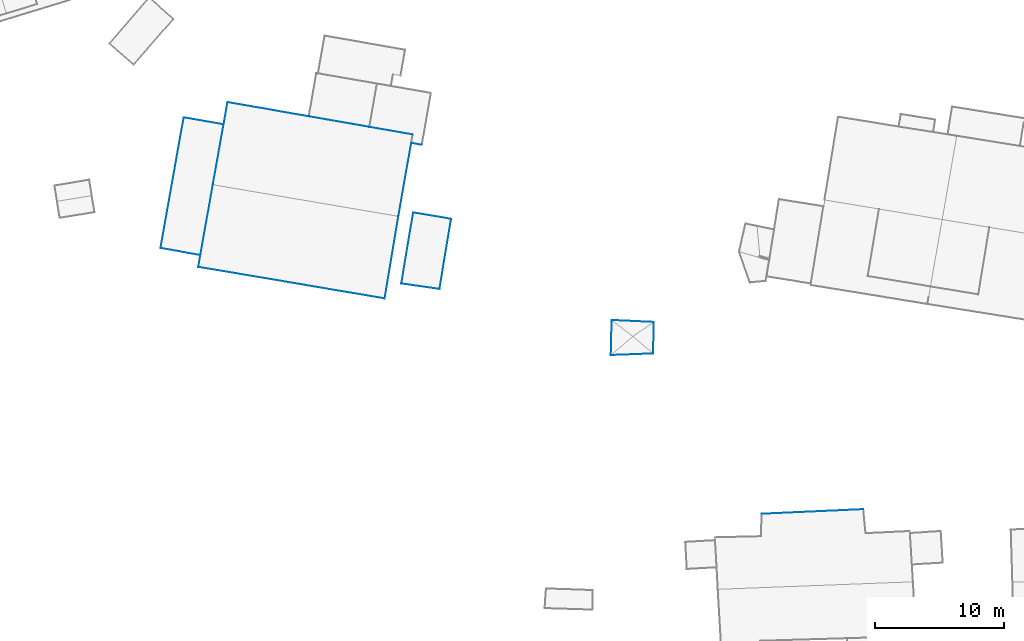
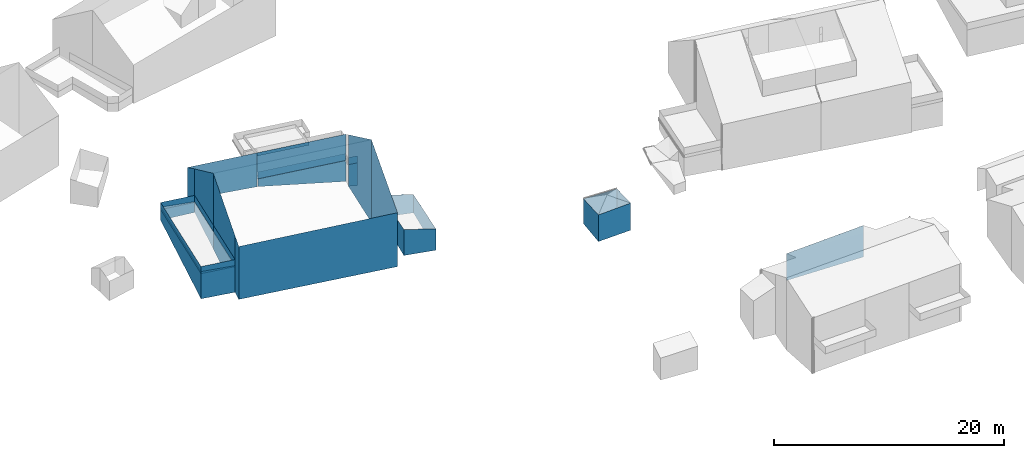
# Not in any storey, part 11 of 57: 47 walls.
"""IFC2X3 building model written with IfcOpenShell, lengths in metres."""

from ifc_helpers import new_model, entity, si_unit, converted_unit, frame, origin, place, context, subcontext, project, spatial, face_set, surface_model, element, save


model = new_model("IFC2X3")

# Units and contexts
model_context = context("Model", 3, precision=1e-05, world=origin())
body_context = subcontext(model_context, "Body", "Model", "MODEL_VIEW")
ifc_project = project(units=[converted_unit("PLANEANGLEUNIT", "DEGREE", entity("IfcRatioMeasure", 0.0174532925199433), si_unit("PLANEANGLEUNIT", "RADIAN"), dimensions=[0, 0, 0, 0, 0, 0, 0]), si_unit("AREAUNIT", "SQUARE_METRE"), si_unit("LENGTHUNIT", "METRE")], contexts=[model_context])

# Site, building
site_placement = place(None, origin())
site = spatial("IfcSite", under=ifc_project, at=site_placement, Name="_site", CompositionType="ELEMENT")
building_1_placement = place(site_placement, origin())
building_1 = spatial("IfcBuilding", under=site, at=building_1_placement, Name="_building", CompositionType="ELEMENT")

# Walls
wall_1_placement = place(building_1_placement, origin())
element("IfcWall", 1, at=wall_1_placement, inside=building_1, Name="Wall", context=body_context, shape_type="SurfaceModel", body=[
    surface_model("IfcFaceBasedSurfaceModel", [(180.491, 83.921, 111.23), (183.759, 83.774, 111.23), (183.759, 83.774, 108.44), (180.491, 83.921, 108.596)], [face_set([[[0, 1, 2, 3]]])]),
])
wall_2_placement = place(building_1_placement, origin())
element("IfcWall", 2, at=wall_2_placement, inside=building_1, Name="Wall", context=body_context, shape_type="SurfaceModel", body=[
    surface_model("IfcFaceBasedSurfaceModel", [(183.759, 83.774, 111.23), (183.722, 81.324, 111.21), (183.722, 81.324, 108.337), (183.759, 83.774, 108.44)], [face_set([[[0, 1, 2, 3]]])]),
])
wall_3_placement = place(building_1_placement, origin())
element("IfcWall", 3, at=wall_3_placement, inside=building_1, Name="Wall", context=body_context, shape_type="SurfaceModel", body=[
    surface_model("IfcFaceBasedSurfaceModel", [(180.427, 81.201, 111.18), (180.491, 83.921, 111.23), (180.491, 83.921, 108.596), (180.427, 81.201, 108.359)], [face_set([[[0, 1, 2, 3]]])]),
])
wall_4_placement = place(building_1_placement, origin())
element("IfcWall", 4, at=wall_4_placement, inside=building_1, Name="Wall", context=body_context, shape_type="SurfaceModel", body=[
    surface_model("IfcFaceBasedSurfaceModel", [(183.722, 81.324, 111.21), (180.427, 81.201, 111.18), (180.427, 81.201, 108.359), (183.722, 81.324, 108.337)], [face_set([[[0, 1, 2, 3]]])]),
])

# Building
building_2_placement = place(site_placement, origin())
building_2 = spatial("IfcBuilding", under=site, at=building_2_placement, Name="_building", CompositionType="ELEMENT")

# Walls
wall_5_placement = place(building_2_placement, origin())
element("IfcWall", 5, at=wall_5_placement, inside=building_2, Name="Wall", context=body_context, shape_type="SurfaceModel", body=[
    surface_model("IfcFaceBasedSurfaceModel", [(167.099, 86.336, 111.26), (164.137, 86.766, 111.96), (164.137, 86.766, 109.21), (167.099, 86.336, 108.998)], [face_set([[[0, 1, 2, 3]]])]),
])
wall_6_placement = place(building_2_placement, origin())
element("IfcWall", 6, at=wall_6_placement, inside=building_2, Name="Wall", context=body_context, shape_type="SurfaceModel", body=[
    surface_model("IfcFaceBasedSurfaceModel", [(168.007, 91.788, 111.26), (167.099, 86.336, 111.26), (167.099, 86.336, 108.998), (168.007, 91.788, 109.33)], [face_set([[[0, 1, 2, 3]]])]),
])
wall_7_placement = place(building_2_placement, origin())
element("IfcWall", 7, at=wall_7_placement, inside=building_2, Name="Wall", context=body_context, shape_type="SurfaceModel", body=[
    surface_model("IfcFaceBasedSurfaceModel", [(165.057, 92.287, 111.96), (168.007, 91.788, 111.26), (168.007, 91.788, 109.33), (165.057, 92.287, 109.576)], [face_set([[[0, 1, 2, 3]]])]),
])
wall_8_placement = place(building_2_placement, origin())
element("IfcWall", 8, at=wall_8_placement, inside=building_2, Name="Wall", context=body_context, shape_type="SurfaceModel", body=[
    surface_model("IfcFaceBasedSurfaceModel", [(164.137, 86.766, 111.96), (165.057, 92.287, 111.96), (165.057, 92.287, 109.576), (164.137, 86.766, 109.21)], [face_set([[[0, 1, 2, 3]]])]),
])

# Building
building_3_placement = place(site_placement, origin())
building_3 = spatial("IfcBuilding", under=site, at=building_3_placement, Name="_building", CompositionType="ELEMENT")

# Walls
wall_9_placement = place(building_3_placement, origin())
element("IfcWall", 9, at=wall_9_placement, inside=building_3, Name="Wall", context=body_context, shape_type="SurfaceModel", body=[
    surface_model("IfcFaceBasedSurfaceModel", [(165.73, 97.545, 111.94), (164.903, 97.694, 111.94), (164.903, 97.694, 109.642), (165.73, 97.545, 109.511)], [face_set([[[0, 1, 2, 3]]])]),
])
wall_10_placement = place(building_3_placement, origin())
element("IfcWall", 10, at=wall_10_placement, inside=building_3, Name="Wall", context=body_context, shape_type="SurfaceModel", body=[
    surface_model("IfcFaceBasedSurfaceModel", [(165.73, 97.545, 111.96), (164.903, 97.694, 111.96), (164.903, 97.694, 109.642), (165.73, 97.545, 109.511)], [face_set([[[0, 1, 2, 3]]])]),
])
for number, where, name in (
    (11, (0.0, 0.0, 0.0), "Wall"),
    (12, (0.0, 0.0, 0.0), "Wall"),
):
    element("IfcWall", number, at=place(building_3_placement, frame(where)), inside=building_3, Name=name, context=body_context, shape_type="SurfaceModel", body=[
        surface_model("IfcFaceBasedSurfaceModel", [(165.73, 97.545, 111.94), (164.903, 97.694, 111.94), (164.903, 97.694, 112.69), (165.73, 97.545, 112.69)], [face_set([[[0, 1, 2, 3]]])]),
    ])

# Building
building_4_placement = place(site_placement, origin())
building_4 = spatial("IfcBuilding", under=site, at=building_4_placement, Name="_building", CompositionType="ELEMENT")

# Walls
wall_11_placement = place(building_4_placement, origin())
element("IfcWall", 13, at=wall_11_placement, inside=building_4, Name="Wall", context=body_context, shape_type="SurfaceModel", body=[
    surface_model("IfcFaceBasedSurfaceModel", [(147.219, 99.679, 112.17), (150.318, 99.137, 112.17), (150.318, 99.137, 111.11), (147.219, 99.679, 111.048)], [face_set([[[0, 1, 2, 3]]])]),
])
wall_12_placement = place(building_4_placement, origin())
element("IfcWall", 14, at=wall_12_placement, inside=building_4, Name="Wall", context=body_context, shape_type="SurfaceModel", body=[
    surface_model("IfcFaceBasedSurfaceModel", [(145.41, 89.525, 112.17), (147.219, 99.679, 112.17), (147.219, 99.679, 111.048), (145.41, 89.525, 109.503)], [face_set([[[0, 1, 2, 3]]])]),
])
wall_13_placement = place(building_4_placement, origin())
element("IfcWall", 15, at=wall_13_placement, inside=building_4, Name="Wall", context=body_context, shape_type="SurfaceModel", body=[
    surface_model("IfcFaceBasedSurfaceModel", [(148.509, 88.972, 112.17), (145.41, 89.525, 112.17), (145.41, 89.525, 109.503), (148.509, 88.972, 109.457)], [face_set([[[0, 1, 2, 3]]])]),
])
wall_14_placement = place(building_4_placement, origin())
element("IfcWall", 16, at=wall_14_placement, inside=building_4, Name="Wall", context=body_context, shape_type="SurfaceModel", body=[
    surface_model("IfcFaceBasedSurfaceModel", [(147.219, 99.679, 112.42), (150.318, 99.137, 112.25), (150.318, 99.137, 111.11), (147.219, 99.679, 111.048)], [face_set([[[0, 1, 2, 3]]])]),
])
wall_15_placement = place(building_4_placement, origin())
element("IfcWall", 17, at=wall_15_placement, inside=building_4, Name="Wall", context=body_context, shape_type="SurfaceModel", body=[
    surface_model("IfcFaceBasedSurfaceModel", [(145.41, 89.525, 112.39), (147.219, 99.679, 112.42), (147.219, 99.679, 111.048), (145.41, 89.525, 109.503)], [face_set([[[0, 1, 2, 3]]])]),
])
wall_16_placement = place(building_4_placement, origin())
element("IfcWall", 18, at=wall_16_placement, inside=building_4, Name="Wall", context=body_context, shape_type="SurfaceModel", body=[
    surface_model("IfcFaceBasedSurfaceModel", [(148.509, 88.972, 112.28), (145.41, 89.525, 112.39), (145.41, 89.525, 109.503), (148.509, 88.972, 109.457)], [face_set([[[0, 1, 2, 3]]])]),
])
wall_17_placement = place(building_4_placement, origin())
element("IfcWall", 19, at=wall_17_placement, inside=building_4, Name="Wall", context=body_context, shape_type="SurfaceModel", body=[
    surface_model("IfcFaceBasedSurfaceModel", [(149.481, 94.453, 112.264), (148.509, 88.972, 112.28), (148.509, 88.972, 109.457), (149.481, 94.453, 110.373)], [face_set([[[0, 1, 2, 3]]])]),
])
wall_18_placement = place(building_4_placement, origin())
element("IfcWall", 20, at=wall_18_placement, inside=building_4, Name="Wall", context=body_context, shape_type="SurfaceModel", body=[
    surface_model("IfcFaceBasedSurfaceModel", [(150.318, 99.137, 112.25), (149.481, 94.453, 112.264), (149.481, 94.453, 110.373), (150.318, 99.137, 111.11)], [face_set([[[0, 1, 2, 3]]])]),
])
wall_19_placement = place(building_4_placement, origin())
element("IfcWall", 21, at=wall_19_placement, inside=building_4, Name="Wall", context=body_context, shape_type="SurfaceModel", body=[
    surface_model("IfcFaceBasedSurfaceModel", [(149.481, 94.453, 112.17), (150.318, 99.137, 112.17), (150.318, 99.137, 112.92), (149.481, 94.453, 112.92)], [face_set([[[0, 1, 2, 3]]])]),
])
wall_20_placement = place(building_4_placement, origin())
element("IfcWall", 22, at=wall_20_placement, inside=building_4, Name="Wall", context=body_context, shape_type="SurfaceModel", body=[
    surface_model("IfcFaceBasedSurfaceModel", [(148.509, 88.972, 112.17), (149.481, 94.453, 112.17), (149.481, 94.453, 112.92), (148.509, 88.972, 112.92)], [face_set([[[0, 1, 2, 3]]])]),
])
wall_21_placement = place(building_4_placement, origin())
element("IfcWall", 23, at=wall_21_placement, inside=building_4, Name="Wall", context=body_context, shape_type="SurfaceModel", body=[
    surface_model("IfcFaceBasedSurfaceModel", [(145.41, 89.525, 112.17), (148.509, 88.972, 112.17), (148.509, 88.972, 112.92), (145.41, 89.525, 112.92)], [face_set([[[0, 1, 2, 3]]])]),
])
wall_22_placement = place(building_4_placement, origin())
element("IfcWall", 24, at=wall_22_placement, inside=building_4, Name="Wall", context=body_context, shape_type="SurfaceModel", body=[
    surface_model("IfcFaceBasedSurfaceModel", [(147.219, 99.679, 112.17), (145.41, 89.525, 112.17), (145.41, 89.525, 112.92), (147.219, 99.679, 112.92)], [face_set([[[0, 1, 2, 3]]])]),
])
wall_23_placement = place(building_4_placement, origin())
element("IfcWall", 25, at=wall_23_placement, inside=building_4, Name="Wall", context=body_context, shape_type="SurfaceModel", body=[
    surface_model("IfcFaceBasedSurfaceModel", [(150.318, 99.137, 112.17), (147.219, 99.679, 112.17), (147.219, 99.679, 112.92), (150.318, 99.137, 112.92)], [face_set([[[0, 1, 2, 3]]])]),
])
wall_24_placement = place(building_4_placement, origin())
element("IfcWall", 26, at=wall_24_placement, inside=building_4, Name="Wall", context=body_context, shape_type="SurfaceModel", body=[
    surface_model("IfcFaceBasedSurfaceModel", [(149.481, 94.453, 112.17), (150.318, 99.137, 112.17), (150.318, 99.137, 112.92), (149.481, 94.453, 112.92)], [face_set([[[0, 1, 2, 3]]])]),
])
wall_25_placement = place(building_4_placement, origin())
element("IfcWall", 27, at=wall_25_placement, inside=building_4, Name="Wall", context=body_context, shape_type="SurfaceModel", body=[
    surface_model("IfcFaceBasedSurfaceModel", [(148.509, 88.972, 112.17), (149.481, 94.453, 112.17), (149.481, 94.453, 112.92), (148.509, 88.972, 112.92)], [face_set([[[0, 1, 2, 3]]])]),
])
wall_26_placement = place(building_4_placement, origin())
element("IfcWall", 28, at=wall_26_placement, inside=building_4, Name="Wall", context=body_context, shape_type="SurfaceModel", body=[
    surface_model("IfcFaceBasedSurfaceModel", [(145.41, 89.525, 112.17), (148.509, 88.972, 112.17), (148.509, 88.972, 112.92), (145.41, 89.525, 112.92)], [face_set([[[0, 1, 2, 3]]])]),
])
wall_27_placement = place(building_4_placement, origin())
element("IfcWall", 29, at=wall_27_placement, inside=building_4, Name="Wall", context=body_context, shape_type="SurfaceModel", body=[
    surface_model("IfcFaceBasedSurfaceModel", [(147.219, 99.679, 112.17), (145.41, 89.525, 112.17), (145.41, 89.525, 112.92), (147.219, 99.679, 112.92)], [face_set([[[0, 1, 2, 3]]])]),
])
wall_28_placement = place(building_4_placement, origin())
element("IfcWall", 30, at=wall_28_placement, inside=building_4, Name="Wall", context=body_context, shape_type="SurfaceModel", body=[
    surface_model("IfcFaceBasedSurfaceModel", [(150.318, 99.137, 112.17), (147.219, 99.679, 112.17), (147.219, 99.679, 112.92), (150.318, 99.137, 112.92)], [face_set([[[0, 1, 2, 3]]])]),
])

# Building
building_5_placement = place(site_placement, origin())
building_5 = spatial("IfcBuilding", under=site, at=building_5_placement, Name="_building", CompositionType="ELEMENT")

# Walls
for number, where, name in (
    (31, (0.0, 0.0, 0.0), "Wall"),
    (32, (0.0, 0.0, 0.0), "Wall"),
):
    element("IfcWall", number, at=place(building_5_placement, frame(where)), inside=building_5, Name=name, context=body_context, shape_type="SurfaceModel", body=[
        surface_model("IfcFaceBasedSurfaceModel", [(161.651, 98.941, 114.73), (156.947, 99.762, 114.73), (156.947, 99.762, 114.38), (161.651, 98.941, 114.38)], [face_set([[[0, 1, 2, 3]]])]),
    ])
wall_29_placement = place(building_5_placement, origin())
element("IfcWall", 33, at=wall_29_placement, inside=building_5, Name="Wall", context=body_context, shape_type="SurfaceModel", body=[
    surface_model("IfcFaceBasedSurfaceModel", [(149.481, 94.453, 112.17), (148.509, 88.972, 112.17), (148.509, 88.972, 109.457), (149.481, 94.453, 110.373)], [face_set([[[0, 1, 2, 3]]])]),
])
wall_30_placement = place(building_5_placement, origin())
element("IfcWall", 34, at=wall_30_placement, inside=building_5, Name="Wall", context=body_context, shape_type="SurfaceModel", body=[
    surface_model("IfcFaceBasedSurfaceModel", [(156.947, 99.762, 114.73), (165.019, 98.352, 114.73), (165.019, 98.352, 111.96), (156.947, 99.762, 111.96)], [face_set([[[0, 1, 2, 3]]])]),
])
wall_31_placement = place(building_5_placement, origin())
element("IfcWall", 35, at=wall_31_placement, inside=building_5, Name="Wall", context=body_context, shape_type="SurfaceModel", body=[
    surface_model("IfcFaceBasedSurfaceModel", [(150.619, 100.861, 114.73), (156.947, 99.762, 114.73), (156.947, 99.762, 111.134), (150.619, 100.861, 111.309)], [face_set([[[0, 1, 2, 3]]])]),
])
wall_32_placement = place(building_5_placement, origin())
element("IfcWall", 36, at=wall_32_placement, inside=building_5, Name="Wall", context=body_context, shape_type="SurfaceModel", body=[
    surface_model("IfcFaceBasedSurfaceModel", [(163.909, 91.994, 118.39), (162.839, 85.605, 114.91), (162.839, 85.605, 109.194), (163.909, 91.994, 109.617)], [face_set([[[0, 1, 2, 3]]])]),
])
wall_33_placement = place(building_5_placement, origin())
element("IfcWall", 37, at=wall_33_placement, inside=building_5, Name="Wall", context=body_context, shape_type="SurfaceModel", body=[
    surface_model("IfcFaceBasedSurfaceModel", [(162.839, 85.605, 114.91), (148.348, 88.056, 114.91), (148.348, 88.056, 109.307), (162.839, 85.605, 109.194)], [face_set([[[0, 1, 2, 3]]])]),
])
wall_34_placement = place(building_5_placement, origin())
element("IfcWall", 38, at=wall_34_placement, inside=building_5, Name="Wall", context=body_context, shape_type="SurfaceModel", body=[
    surface_model("IfcFaceBasedSurfaceModel", [(148.509, 88.972, 115.41), (149.481, 94.453, 118.39), (149.481, 94.453, 112.17), (148.509, 88.972, 112.17)], [face_set([[[0, 1, 2, 3]]])]),
])
wall_35_placement = place(building_5_placement, origin())
element("IfcWall", 39, at=wall_35_placement, inside=building_5, Name="Wall", context=body_context, shape_type="SurfaceModel", body=[
    surface_model("IfcFaceBasedSurfaceModel", [(164.903, 97.694, 115.11), (163.909, 91.994, 118.39), (163.909, 91.994, 109.617), (164.903, 97.694, 109.642)], [face_set([[[0, 1, 2, 3]]])]),
])
wall_36_placement = place(building_5_placement, origin())
element("IfcWall", 40, at=wall_36_placement, inside=building_5, Name="Wall", context=body_context, shape_type="SurfaceModel", body=[
    surface_model("IfcFaceBasedSurfaceModel", [(150.318, 99.137, 115.72), (150.619, 100.861, 114.73), (150.619, 100.861, 111.309), (150.318, 99.137, 111.11)], [face_set([[[0, 1, 2, 3]]])]),
])
wall_37_placement = place(building_5_placement, origin())
element("IfcWall", 41, at=wall_37_placement, inside=building_5, Name="Wall", context=body_context, shape_type="SurfaceModel", body=[
    surface_model("IfcFaceBasedSurfaceModel", [(150.318, 99.137, 112.17), (149.481, 94.453, 112.17), (149.481, 94.453, 110.373), (150.318, 99.137, 111.11)], [face_set([[[0, 1, 2, 3]]])]),
])
wall_38_placement = place(building_5_placement, origin())
element("IfcWall", 42, at=wall_38_placement, inside=building_5, Name="Wall", context=body_context, shape_type="SurfaceModel", body=[
    surface_model("IfcFaceBasedSurfaceModel", [(165.019, 98.352, 111.94), (157.017, 99.75, 111.94), (157.017, 99.75, 111.125), (165.019, 98.352, 109.727)], [face_set([[[0, 1, 2, 3]]])]),
])
wall_39_placement = place(building_5_placement, origin())
element("IfcWall", 43, at=wall_39_placement, inside=building_5, Name="Wall", context=body_context, shape_type="SurfaceModel", body=[
    surface_model("IfcFaceBasedSurfaceModel", [(149.481, 94.453, 118.39), (150.318, 99.137, 115.72), (150.318, 99.137, 112.17), (149.481, 94.453, 112.17)], [face_set([[[0, 1, 2, 3]]])]),
])
wall_40_placement = place(building_5_placement, origin())
element("IfcWall", 44, at=wall_40_placement, inside=building_5, Name="Wall", context=body_context, shape_type="SurfaceModel", body=[
    surface_model("IfcFaceBasedSurfaceModel", [(148.348, 88.056, 114.91), (148.509, 88.972, 115.41), (148.509, 88.972, 109.457), (148.348, 88.056, 109.307)], [face_set([[[0, 1, 2, 3]]])]),
])
for number, where, name in (
    (45, (0.0, 0.0, 0.0), "Wall"),
    (46, (0.0, 0.0, 0.0), "Wall"),
):
    element("IfcWall", number, at=place(building_5_placement, frame(where)), inside=building_5, Name=name, context=body_context, shape_type="SurfaceModel", body=[
        surface_model("IfcFaceBasedSurfaceModel", [(165.019, 98.352, 111.94), (157.017, 99.75, 111.94), (157.017, 99.75, 112.69), (165.019, 98.352, 112.69)], [face_set([[[0, 1, 2, 3]]])]),
    ])

# Building
building_6_placement = place(site_placement, origin())
building_6 = spatial("IfcBuilding", under=site, at=building_6_placement, Name="_building", CompositionType="ELEMENT")

# Wall
wall_41_placement = place(building_6_placement, origin())
element("IfcWall", 47, at=wall_41_placement, inside=building_6, Name="Wall", context=body_context, shape_type="SurfaceModel", body=[
    surface_model("IfcFaceBasedSurfaceModel", [(192.156, 68.859, 110.47), (200.059, 69.214, 110.47), (200.059, 69.214, 107.124), (192.156, 68.859, 107.608)], [face_set([[[0, 1, 2, 3]]])]),
])

save(model, "model.ifc")
